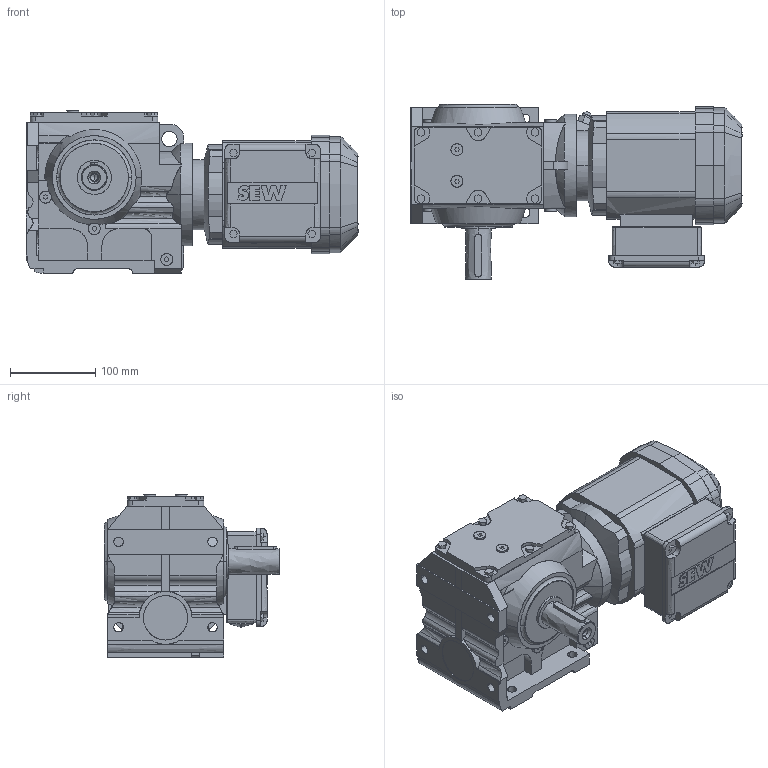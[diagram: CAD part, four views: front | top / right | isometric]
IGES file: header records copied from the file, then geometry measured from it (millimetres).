
Start section: Data from XPlus IGES,  Spatial Corp. Copyright (c) 1999-2006 .
Global section: file name: NoName; native system:  By Spatial Corp.; preprocessor: XPlus ACIS/IGES; author: SEW-EURODRIVE GmbH & Co KG; organization: CADClick - KiM GmbH - www.kimweb.de; date: 20120227.225912; units: millimetre
Bounding box: 389 x 206 x 190 mm (x, y, z)
Surface area: 344807.2 mm2 (no closed solid volume)
Topology: 0 solids, 0 shells, 722 faces, 4297 edges, 4286 vertices
Faces by surface type: bspline 722
